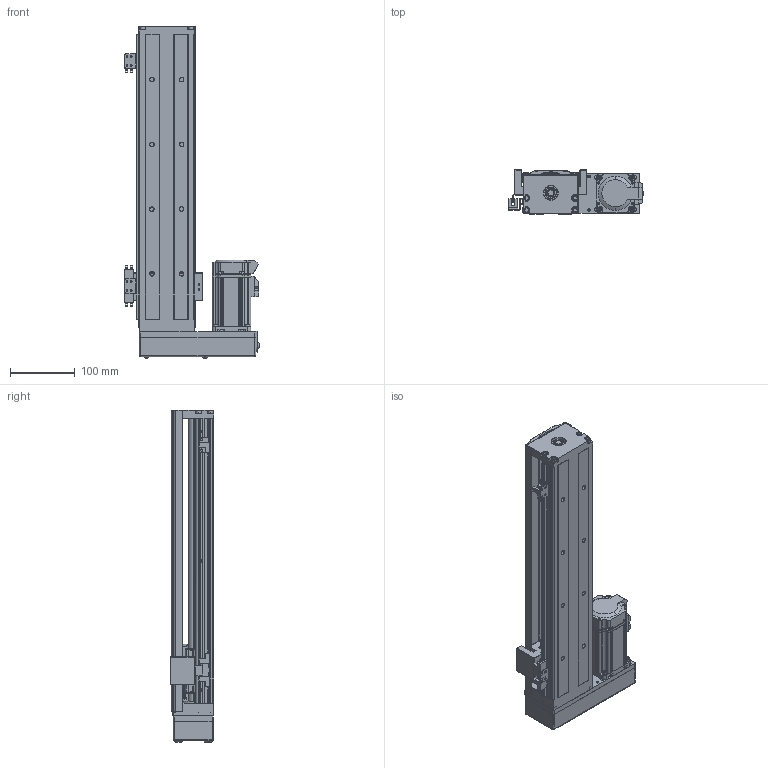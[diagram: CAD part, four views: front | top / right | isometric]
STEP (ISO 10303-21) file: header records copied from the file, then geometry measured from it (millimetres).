
FILE_DESCRIPTION (( 'STEP AP214' ), '1' );
FILE_NAME ('SFKK86-440S1-HR0C.STEP', '2022-05-05T13:48:14', ( '微软用户' ), ( '微软中国' ), 'SwSTEP 2.0', 'SolidWorks 2018', '' );
FILE_SCHEMA (( 'AUTOMOTIVE_DESIGN' ));
Length unit declared in the file: millimetre
Products named in the file (13): SFKK86-H0_KKR86-ZT-P-440; SFKK86-S1; SFKK86-CU_440; SFKK86-FS; SFKK86-440S1-HR0C; 带盖挡光片：KK-86-S2-D1; 蚐郲; 极限轨道与开关固定座组合_440; SX674嫖萇羲壽; SFKK86-LR 憤癹寢耋_440; SFKK86-H0-侂狟400W耜蚾; hexagon socket countersunk head screws gb_GB_FASTENER_SCREWS_HSCHS M4X10-N; 开关固定座：KK-674S2-F
Assembly tree (18 placements, depth 3):
  SFKK86-440S1-HR0C
    SFKK86-H0_KKR86-ZT-P-440
    SFKK86-S1
    极限轨道与开关固定座组合_440
      SFKK86-LR 憤癹寢耋_440
      开关固定座：KK-674S2-F  x2
    SX674嫖萇羲壽  x3
    蚐郲
    SFKK86-FS
    带盖挡光片：KK-86-S2-D1
    SFKK86-CU_440
    hexagon socket countersunk head screws gb_GB_FASTENER_SCREWS_HSCHS M4X10-N  x4
    SFKK86-H0-侂狟400W耜蚾
Bounding box: 208.5 x 68 x 513.2 mm (x, y, z)
Volume: 1206990.8 mm3; surface area: 540721.9 mm2
Topology: 31 solids, 80 shells, 3507 faces, 9403 edges, 6039 vertices
Faces by surface type: plane 1561, cylinder 1441, cone 285, bspline 100, torus 87, sphere 33
Entity records: 141082 total; most frequent: CARTESIAN_POINT 29096, DIRECTION 17615, ORIENTED_EDGE 17054, EDGE_CURVE 8810, AXIS2_PLACEMENT_3D 6282, VERTEX_POINT 5746, LINE 5051, VECTOR 5051
